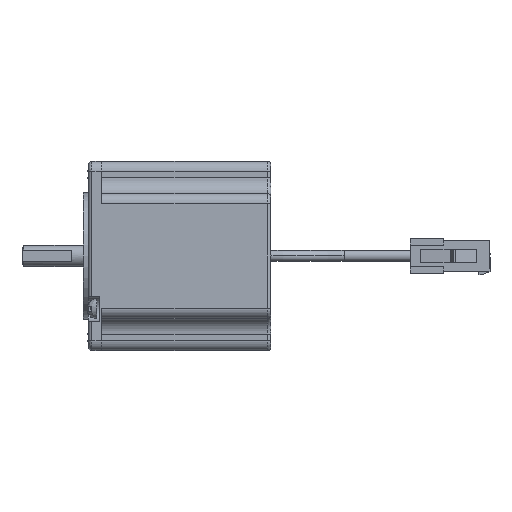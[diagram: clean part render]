
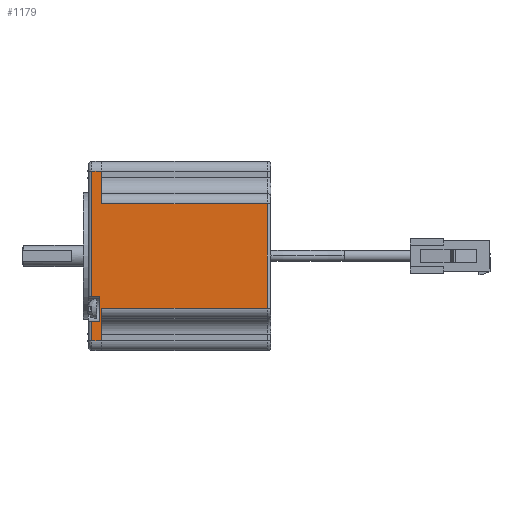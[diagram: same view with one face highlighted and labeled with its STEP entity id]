
A CAD part, front view. The second image highlights one B-rep face of the part: STEP entity #1179.
In plain terms, the highlighted planar face has unit normal (0, -1, 0) as drawn and (0, 1, 0) by its records, which use the part's own axes.
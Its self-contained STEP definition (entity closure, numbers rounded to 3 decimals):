
#141 = VECTOR ( 'NONE', #9856, 1000. ) ;
#157 = ORIENTED_EDGE ( 'NONE', *, *, #1932, .T. ) ;
#674 = ORIENTED_EDGE ( 'NONE', *, *, #1018, .T. ) ;
#852 = DIRECTION ( 'NONE',  ( 0., 0., 1. ) ) ;
#854 = VERTEX_POINT ( 'NONE', #5455 ) ;
#862 = ORIENTED_EDGE ( 'NONE', *, *, #5518, .F. ) ;
#1018 = EDGE_CURVE ( 'NONE', #4155, #4109, #2795, .T. ) ;
#1023 = LINE ( 'NONE', #8425, #7153 ) ;
#1051 = CARTESIAN_POINT ( 'NONE',  ( 66.711, -21.243, 0. ) ) ;
#1166 = EDGE_CURVE ( 'NONE', #854, #1949, #1023, .T. ) ;
#1179 = ADVANCED_FACE ( 'NONE', ( #1524 ), #8058, .T. ) ;
#1188 = VECTOR ( 'NONE', #3416, 1000. ) ;
#1205 = EDGE_CURVE ( 'NONE', #5928, #1222, #2898, .T. ) ;
#1222 = VERTEX_POINT ( 'NONE', #7613 ) ;
#1394 = CARTESIAN_POINT ( 'NONE',  ( 104.411, -21.243, 54. ) ) ;
#1414 = CARTESIAN_POINT ( 'NONE',  ( 120.711, -21.243, 54. ) ) ;
#1491 = CARTESIAN_POINT ( 'NONE',  ( 76.441, -21.243, 1. ) ) ;
#1524 = FACE_OUTER_BOUND ( 'NONE', #2003, .T. ) ;
#1545 = EDGE_CURVE ( 'NONE', #1222, #3883, #2269, .T. ) ;
#1669 = DIRECTION ( 'NONE',  ( 1., 0., 0. ) ) ;
#1741 = EDGE_CURVE ( 'NONE', #3883, #2778, #2909, .T. ) ;
#1932 = EDGE_CURVE ( 'NONE', #7619, #3297, #9011, .T. ) ;
#1933 = EDGE_CURVE ( 'NONE', #4109, #6166, #3028, .T. ) ;
#1949 = VERTEX_POINT ( 'NONE', #2156 ) ;
#2003 = EDGE_LOOP ( 'NONE', ( #3095, #5528, #2931, #6497, #5311, #2841, #8084, #4177, #862, #157, #8095, #674 ) ) ;
#2017 = EDGE_CURVE ( 'NONE', #6166, #5928, #2529, .T. ) ;
#2156 = CARTESIAN_POINT ( 'NONE',  ( 107.981, -21.243, 51. ) ) ;
#2269 = LINE ( 'NONE', #3957, #6067 ) ;
#2320 = CARTESIAN_POINT ( 'NONE',  ( 107.981, -21.243, 1. ) ) ;
#2528 = VECTOR ( 'NONE', #852, 1000. ) ;
#2529 = LINE ( 'NONE', #8437, #141 ) ;
#2778 = VERTEX_POINT ( 'NONE', #7632 ) ;
#2795 = LINE ( 'NONE', #1051, #2528 ) ;
#2841 = ORIENTED_EDGE ( 'NONE', *, *, #6701, .T. ) ;
#2894 = LINE ( 'NONE', #9537, #6677 ) ;
#2898 = LINE ( 'NONE', #7699, #4685 ) ;
#2909 = LINE ( 'NONE', #1414, #8455 ) ;
#2931 = ORIENTED_EDGE ( 'NONE', *, *, #1205, .T. ) ;
#2990 = CARTESIAN_POINT ( 'NONE',  ( 120.711, -21.243, 54. ) ) ;
#3027 = DIRECTION ( 'NONE',  ( 1., 0., 0. ) ) ;
#3028 = LINE ( 'NONE', #2990, #8798 ) ;
#3035 = VECTOR ( 'NONE', #6783, 1000. ) ;
#3095 = ORIENTED_EDGE ( 'NONE', *, *, #1933, .T. ) ;
#3160 = DIRECTION ( 'NONE',  ( 0., 0., 1. ) ) ;
#3297 = VERTEX_POINT ( 'NONE', #6389 ) ;
#3416 = DIRECTION ( 'NONE',  ( 1., 0., 0. ) ) ;
#3532 = LINE ( 'NONE', #4195, #1188 ) ;
#3596 = CARTESIAN_POINT ( 'NONE',  ( 76.441, -21.243, 0. ) ) ;
#3658 = EDGE_CURVE ( 'NONE', #4538, #1949, #2894, .T. ) ;
#3686 = DIRECTION ( 'NONE',  ( -1., 0., 0. ) ) ;
#3839 = DIRECTION ( 'NONE',  ( 0., 0., 1. ) ) ;
#3883 = VERTEX_POINT ( 'NONE', #4789 ) ;
#3957 = CARTESIAN_POINT ( 'NONE',  ( 111.811, -21.243, 0. ) ) ;
#4109 = VERTEX_POINT ( 'NONE', #5184 ) ;
#4155 = VERTEX_POINT ( 'NONE', #5736 ) ;
#4177 = ORIENTED_EDGE ( 'NONE', *, *, #3658, .F. ) ;
#4195 = CARTESIAN_POINT ( 'NONE',  ( 76.441, -21.243, 1. ) ) ;
#4196 = DIRECTION ( 'NONE',  ( 0., 0., 1. ) ) ;
#4430 = CARTESIAN_POINT ( 'NONE',  ( 120.711, -21.243, 51. ) ) ;
#4538 = VERTEX_POINT ( 'NONE', #2320 ) ;
#4685 = VECTOR ( 'NONE', #7777, 1000. ) ;
#4789 = CARTESIAN_POINT ( 'NONE',  ( 111.811, -21.243, 54. ) ) ;
#5181 = CARTESIAN_POINT ( 'NONE',  ( 117.711, -21.243, 0. ) ) ;
#5184 = CARTESIAN_POINT ( 'NONE',  ( 66.711, -21.243, 54. ) ) ;
#5311 = ORIENTED_EDGE ( 'NONE', *, *, #1741, .T. ) ;
#5455 = CARTESIAN_POINT ( 'NONE',  ( 117.711, -21.243, 51. ) ) ;
#5518 = EDGE_CURVE ( 'NONE', #7619, #4538, #3532, .T. ) ;
#5528 = ORIENTED_EDGE ( 'NONE', *, *, #2017, .T. ) ;
#5736 = CARTESIAN_POINT ( 'NONE',  ( 66.711, -21.243, 51. ) ) ;
#5928 = VERTEX_POINT ( 'NONE', #8062 ) ;
#6067 = VECTOR ( 'NONE', #3839, 1000. ) ;
#6166 = VERTEX_POINT ( 'NONE', #1394 ) ;
#6389 = CARTESIAN_POINT ( 'NONE',  ( 76.441, -21.243, 51. ) ) ;
#6497 = ORIENTED_EDGE ( 'NONE', *, *, #1545, .T. ) ;
#6677 = VECTOR ( 'NONE', #4196, 1000. ) ;
#6701 = EDGE_CURVE ( 'NONE', #2778, #854, #7044, .T. ) ;
#6783 = DIRECTION ( 'NONE',  ( 0., 0., -1. ) ) ;
#7044 = LINE ( 'NONE', #5181, #3035 ) ;
#7150 = VECTOR ( 'NONE', #3686, 1000. ) ;
#7153 = VECTOR ( 'NONE', #8482, 1000. ) ;
#7613 = CARTESIAN_POINT ( 'NONE',  ( 111.811, -21.243, 51.5 ) ) ;
#7619 = VERTEX_POINT ( 'NONE', #1491 ) ;
#7632 = CARTESIAN_POINT ( 'NONE',  ( 117.711, -21.243, 54. ) ) ;
#7699 = CARTESIAN_POINT ( 'NONE',  ( 120.711, -21.243, 51.5 ) ) ;
#7777 = DIRECTION ( 'NONE',  ( 1., 0., 0. ) ) ;
#7924 = DIRECTION ( 'NONE',  ( 0., 0., 1. ) ) ;
#7987 = DIRECTION ( 'NONE',  ( 0., 1., 0. ) ) ;
#8021 = CARTESIAN_POINT ( 'NONE',  ( 120.711, -21.243, 0. ) ) ;
#8058 = PLANE ( 'NONE',  #8229 ) ;
#8062 = CARTESIAN_POINT ( 'NONE',  ( 104.411, -21.243, 51.5 ) ) ;
#8084 = ORIENTED_EDGE ( 'NONE', *, *, #1166, .T. ) ;
#8095 = ORIENTED_EDGE ( 'NONE', *, *, #9809, .T. ) ;
#8229 = AXIS2_PLACEMENT_3D ( 'NONE', #8021, #7987, #7924 ) ;
#8425 = CARTESIAN_POINT ( 'NONE',  ( 120.711, -21.243, 51. ) ) ;
#8437 = CARTESIAN_POINT ( 'NONE',  ( 104.411, -21.243, 0. ) ) ;
#8455 = VECTOR ( 'NONE', #1669, 1000. ) ;
#8482 = DIRECTION ( 'NONE',  ( -1., 0., 0. ) ) ;
#8798 = VECTOR ( 'NONE', #3027, 1000. ) ;
#9011 = LINE ( 'NONE', #3596, #9228 ) ;
#9107 = LINE ( 'NONE', #4430, #7150 ) ;
#9228 = VECTOR ( 'NONE', #3160, 1000. ) ;
#9537 = CARTESIAN_POINT ( 'NONE',  ( 107.981, -21.243, 0. ) ) ;
#9809 = EDGE_CURVE ( 'NONE', #3297, #4155, #9107, .T. ) ;
#9856 = DIRECTION ( 'NONE',  ( 0., 0., -1. ) ) ;
